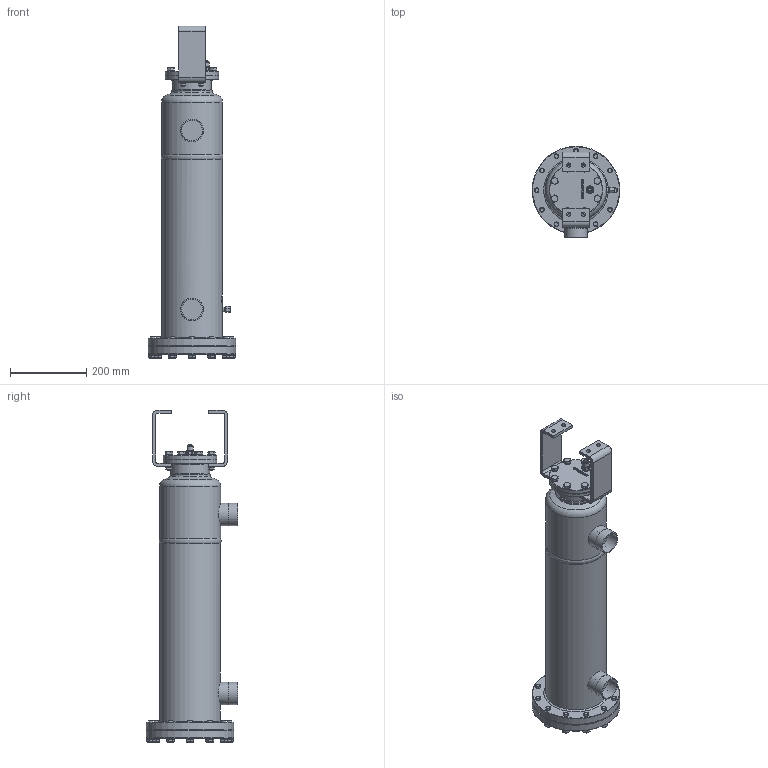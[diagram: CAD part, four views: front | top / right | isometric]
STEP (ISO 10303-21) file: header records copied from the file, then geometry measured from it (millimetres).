
FILE_DESCRIPTION(/* description */ (''),/* implementation_level */ '2;1');
FILE_NAME(/* name */ 'P:\OS\BOS2-54F\BOS2-54F.stp',/* time_stamp */ '2017-10-04T07:50:01+02:00',/* author */ ('neufeld'),/* organization */ (''),/* preprocessor_version */ 'ST-DEVELOPER v16.1',/* originating_system */ 'Autodesk Inventor 2016',/* authorisation */ '');
FILE_SCHEMA (('AUTOMOTIVE_DESIGN { 1 0 10303 214 3 1 1 }'));
Products named in the file (2): BOS2-54F; BOS2-54F_1
Assembly tree (1 placements, depth 2):
  BOS2-54F_1
    BOS2-54F
Bounding box: 230 x 240 x 870.45 mm (x, y, z)
Volume: 15513583.4 mm3; surface area: 583745.2 mm2
Topology: 1 solids, 5 shells, 1834 faces, 4735 edges, 3082 vertices
Faces by surface type: plane 981, bspline 420, cylinder 222, cone 204, torus 6, sphere 1
Full cylindrical faces by diameter (mm): 7.2 x1, 8 x7, 8.9 x1, 10 x4, 11 x4, 12 x13, 13.5 x1, 15.4 x8, 15.7 x1, 16.63 x12, 19 x1, 54.3 x2, 59 x2, 59.5 x2, 102 x1, 105 x1, 138 x1, 140 x2, 159 x1, 160 x1, 228 x1, 230 x2
Entity records: 63228 total; most frequent: CARTESIAN_POINT 22041, ORIENTED_EDGE 9136, DIRECTION 7479, EDGE_CURVE 4565, VERTEX_POINT 3033, AXIS2_PLACEMENT_3D 2710, EDGE_LOOP 2142, LINE 2059
